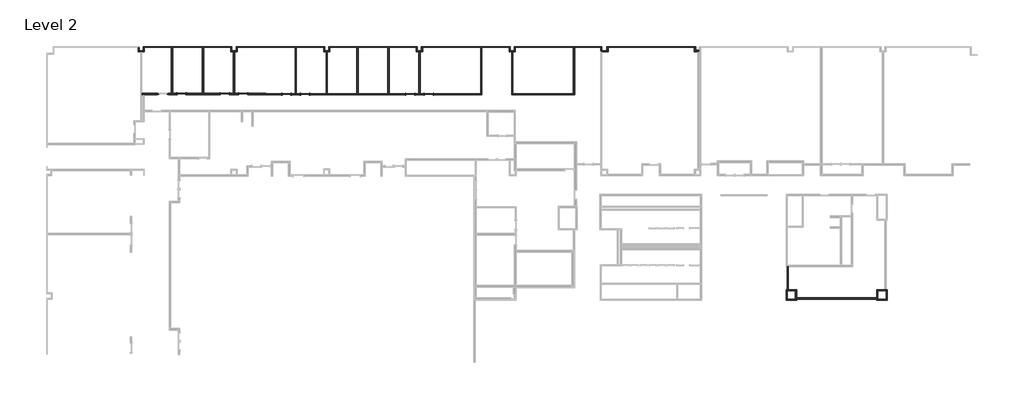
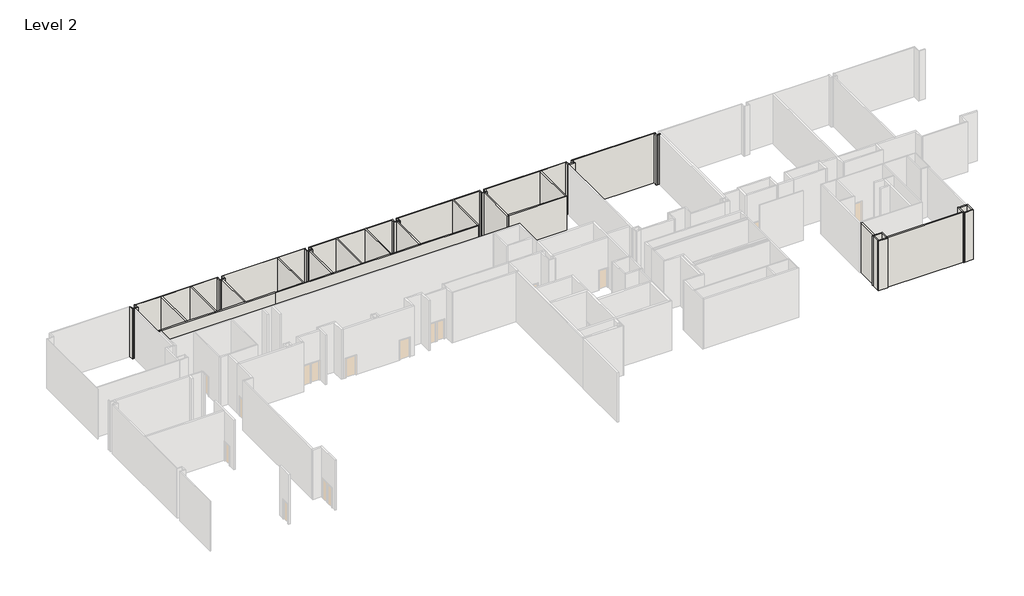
# One storey, part 8 of 9: 50 walls, 7 doors.
"""IFC4 building model written with IfcOpenShell, lengths in millimetres."""

from ifc_helpers import new_model, si_unit, frame, origin, place, context, project, spatial, polyline, outline, extrude, faceted_brep, transform, mapped, element, save
from components import door_3b0d1d25, door_7c9e1b45, door_8244bb97, door_1264ff72

model = new_model("IFC4")

# Units and contexts
model_context = context("Model", 3, world=origin())
ifc_project = project(units=[si_unit("LENGTHUNIT", "METRE", prefix="MILLI")], contexts=[model_context])

# Site, building, storey
site = spatial("IfcSite", under=ifc_project)
building = spatial("IfcBuilding", under=site)
storey = spatial("IfcBuildingStorey", under=building, Name="Level 2", Elevation=5486.4)

# Doors
placement = place(None, origin())
door_shape = door_3b0d1d25(model_context)
element("IfcDoor", 1, ObjectType="Single-Flush : 34\" x 84\"", at=placement, inside=storey, context=model_context, shape_type="MappedRepresentation", body=[
    mapped(door_shape, transform((34204.5818654, 33186.4956105, 5486.4), x_axis=(-1.0, 0.0, 0.0), y_axis=(0.0, -1.0, 0.0), z_axis=(0.0, 0.0, 1.0))),
])
element("IfcDoor", 2, ObjectType="Single-Flush : 34\" x 84\"", at=placement, inside=storey, context=model_context, shape_type="MappedRepresentation", body=[
    mapped(door_shape, transform((22012.6004373, 33186.4956105, 5486.4), x_axis=(-1.0, 0.0, 0.0), y_axis=(0.0, -1.0, 0.0), z_axis=(0.0, 0.0, 1.0))),
])
door_2_shape = door_7c9e1b45(model_context)
element("IfcDoor", 3, ObjectType="Single-Flush : 34\" x 84\"", at=placement, inside=storey, context=model_context, shape_type="MappedRepresentation", body=[
    mapped(door_2_shape, transform((32375.7818654, 33186.4956105, 5486.4), x_axis=(1.0, 0.0, 0.0), y_axis=(0.0, 1.0, 0.0), z_axis=(0.0, 0.0, 1.0))),
])
element("IfcDoor", 4, ObjectType="Single-Flush : 34\" x 84\"", at=placement, inside=storey, context=model_context, shape_type="MappedRepresentation", body=[
    mapped(door_2_shape, transform((20183.8004373, 33186.4956105, 5486.4), x_axis=(1.0, 0.0, 0.0), y_axis=(0.0, 1.0, 0.0), z_axis=(0.0, 0.0, 1.0))),
])
door_3_shape = door_8244bb97(model_context)
element("IfcDoor", 5, ObjectType="Single-Flush : 34\" x 84\"", at=placement, inside=storey, context=model_context, shape_type="MappedRepresentation", body=[
    mapped(door_3_shape, transform((14087.8004373, 33215.0706105, 5486.4), x_axis=(1.0, 0.0, 0.0), y_axis=(0.0, 1.0, 0.0), z_axis=(0.0, 0.0, 1.0))),
])
door_4_shape = door_1264ff72(model_context)
element("IfcDoor", 6, ObjectType="Single-Flush : 34\" x 84\"", at=placement, inside=storey, context=model_context, shape_type="MappedRepresentation", body=[
    mapped(door_4_shape, transform((15916.6004373, 33215.0706105, 5486.4), x_axis=(-1.0, 0.0, 0.0), y_axis=(0.0, -1.0, 0.0), z_axis=(0.0, 0.0, 1.0))),
])
element("IfcDoor", 7, ObjectType="Single-Flush : 34\" x 84\"", at=placement, inside=storey, context=model_context, shape_type="MappedRepresentation", body=[
    mapped(door_4_shape, transform((9820.6004373, 33215.0706105, 5486.4), x_axis=(-1.0, 0.0, 0.0), y_axis=(0.0, -1.0, 0.0), z_axis=(0.0, 0.0, 1.0))),
])

# Walls
element("IfcWall", 8, ObjectType="N2A/B", at=placement, inside=storey, context=model_context, shape_type="Brep", body=[
    faceted_brep([(39324.2879373, 37874.3831105, 5486.4), (39324.2879373, 33248.4081105, 5486.4), (39324.2879373, 33124.5831105, 5486.4), (39324.2879373, 33124.5831105, 10972.8), (39324.2879373, 33248.4081105, 10972.8), (39324.2879373, 37874.3831105, 10972.8), (39448.1129373, 37874.3831105, 5486.4), (39448.1129373, 37874.3831105, 10972.8), (39448.1129373, 33124.5831105, 10972.8), (39448.1129373, 33124.5831105, 5486.4)], [[[0, 1, 2, 3, 4, 5]], [[6, 7, 8, 9]], [[2, 1, 0, 6, 9]], [[5, 4, 3, 8, 7]], [[0, 5, 7, 6]], [[3, 2, 9, 8]]]),
])
element("IfcWall", 9, ObjectType="N2A/B", at=placement, inside=storey, context=model_context, shape_type="Brep", body=[
    faceted_brep([(21580.8004373, 33248.4081105, 7620.0), (21580.8004373, 33248.4081105, 5486.4), (21160.1129373, 33248.4081105, 5486.4), (21036.2879373, 33248.4081105, 5486.4), (20615.6004373, 33248.4081105, 5486.4), (20615.6004373, 33248.4081105, 7620.0), (19752.0004373, 33248.4081105, 7620.0), (19752.0004373, 33248.4081105, 5486.4), (18137.5129373, 33248.4081105, 5486.4), (18137.5129373, 33248.4081105, 10972.8), (21036.2879373, 33248.4081105, 10972.8), (21160.1129373, 33248.4081105, 10972.8), (24084.2693654, 33248.4081105, 10972.8), (24208.0943654, 33248.4081105, 10972.8), (27132.2879373, 33248.4081105, 10972.8), (27256.1129373, 33248.4081105, 10972.8), (30180.2879373, 33248.4081105, 10972.8), (30304.1129373, 33248.4081105, 10972.8), (33228.2693654, 33248.4081105, 10972.8), (33352.0943654, 33248.4081105, 10972.8), (39324.2879373, 33248.4081105, 10972.8), (39324.2879373, 33248.4081105, 5486.4), (34636.3818654, 33248.4081105, 5486.4), (34636.3818654, 33248.4081105, 7620.0), (33772.7818654, 33248.4081105, 7620.0), (33772.7818654, 33248.4081105, 5486.4), (33352.0943654, 33248.4081105, 5486.4), (33228.2693654, 33248.4081105, 5486.4), (32807.5818654, 33248.4081105, 5486.4), (32807.5818654, 33248.4081105, 7620.0), (31943.9818654, 33248.4081105, 7620.0), (31943.9818654, 33248.4081105, 5486.4), (30304.1129373, 33248.4081105, 5486.4), (30180.2879373, 33248.4081105, 5486.4), (27256.1129373, 33248.4081105, 5486.4), (27132.2879373, 33248.4081105, 5486.4), (24208.0943654, 33248.4081105, 5486.4), (24084.2693654, 33248.4081105, 5486.4), (22444.4004373, 33248.4081105, 5486.4), (22444.4004373, 33248.4081105, 7620.0), (20615.6004373, 33124.5831105, 5486.4), (21580.8004373, 33124.5831105, 5486.4), (21580.8004373, 33124.5831105, 7620.0), (22444.4004373, 33124.5831105, 7620.0), (22444.4004373, 33124.5831105, 5486.4), (31943.9818654, 33124.5831105, 5486.4), (31943.9818654, 33124.5831105, 7620.0), (32807.5818654, 33124.5831105, 7620.0), (32807.5818654, 33124.5831105, 5486.4), (33772.7818654, 33124.5831105, 5486.4), (33772.7818654, 33124.5831105, 7620.0), (34636.3818654, 33124.5831105, 7620.0), (34636.3818654, 33124.5831105, 5486.4), (39324.2879373, 33124.5831105, 5486.4), (39324.2879373, 33124.5831105, 10972.8), (18137.5129373, 33124.5831105, 10972.8), (18137.5129373, 33124.5831105, 5486.4), (19752.0004373, 33124.5831105, 5486.4), (19752.0004373, 33124.5831105, 7620.0), (20615.6004373, 33124.5831105, 7620.0), (18137.5129373, 33137.2831105, 5486.4), (18137.5129373, 33137.2831105, 10972.8)], [[[0, 1, 2, 3, 4, 5, 6, 7, 8, 9, 10, 11, 12, 13, 14, 15, 16, 17, 18, 19, 20, 21, 22, 23, 24, 25, 26, 27, 28, 29, 30, 31, 32, 33, 34, 35, 36, 37, 38, 39]], [[40, 41, 42, 43, 44, 45, 46, 47, 48, 49, 50, 51, 52, 53, 54, 55, 56, 57, 58, 59]], [[49, 48, 28, 27, 26, 25]], [[22, 21, 53, 52]], [[4, 3, 2, 1, 41, 40]], [[57, 56, 60, 8, 7]], [[38, 37, 36, 35, 34, 33, 32, 31, 45, 44]], [[9, 8, 60, 56, 55, 61]], [[20, 19, 18, 17, 16, 15, 14, 13, 12, 11, 10, 9, 61, 55, 54]], [[21, 20, 54, 53]], [[50, 49, 25, 24]], [[51, 50, 24, 23]], [[52, 51, 23, 22]], [[29, 28, 48, 47]], [[30, 29, 47, 46]], [[31, 30, 46, 45]], [[5, 4, 40, 59]], [[6, 5, 59, 58]], [[7, 6, 58, 57]], [[42, 41, 1, 0]], [[43, 42, 0, 39]], [[44, 43, 39, 38]]]),
])
element("IfcWall", 10, ObjectType="N2A/B", at=placement, inside=storey, context=model_context, shape_type="SweptSolid", body=[
    extrude(outline(polyline([(21160.1129373, 37874.3831105), (21160.1129373, 33248.4081105), (21036.2879373, 33248.4081105), (21036.2879373, 37874.3831105), (21160.1129373, 37874.3831105)])), frame((0.0, 0.0, 5486.4), z_axis=(0.0, 0.0, 1.0), x_axis=(1.0, 0.0, 0.0)), (0.0, 0.0, 1.0), 5486.4),
])
element("IfcWall", 11, ObjectType="N2A/B", at=placement, inside=storey, context=model_context, shape_type="SweptSolid", body=[
    extrude(outline(polyline([(24084.2693654, 33248.4081105), (24084.2693654, 37366.3831105), (24208.0943654, 37366.3831105), (24208.0943654, 33248.4081105), (24084.2693654, 33248.4081105)])), frame((0.0, 0.0, 5486.4), z_axis=(0.0, 0.0, 1.0), x_axis=(1.0, 0.0, 0.0)), (0.0, 0.0, 1.0), 5486.4),
])
element("IfcWall", 12, ObjectType="N2A/B", at=placement, inside=storey, context=model_context, shape_type="SweptSolid", body=[
    extrude(outline(polyline([(27256.1129373, 37874.3831105), (27256.1129373, 33248.4081105), (27132.2879373, 33248.4081105), (27132.2879373, 37874.3831105), (27256.1129373, 37874.3831105)])), frame((0.0, 0.0, 5486.4), z_axis=(0.0, 0.0, 1.0), x_axis=(1.0, 0.0, 0.0)), (0.0, 0.0, 1.0), 5486.4),
])
element("IfcWall", 13, ObjectType="N2A/B", at=placement, inside=storey, context=model_context, shape_type="SweptSolid", body=[
    extrude(outline(polyline([(30180.2879373, 33248.4081105), (30180.2879373, 37874.3831105), (30304.1129373, 37874.3831105), (30304.1129373, 33248.4081105), (30180.2879373, 33248.4081105)])), frame((0.0, 0.0, 5486.4), z_axis=(0.0, 0.0, 1.0), x_axis=(1.0, 0.0, 0.0)), (0.0, 0.0, 1.0), 5486.4),
])
element("IfcWall", 14, ObjectType="N2A/B", at=placement, inside=storey, context=model_context, shape_type="Brep", body=[
    faceted_brep([(42372.2693654, 37366.3831105, 5486.4), (42372.2693654, 33124.5831105, 5486.4), (42372.2693654, 33124.5831105, 10972.8), (42372.2693654, 37366.3831105, 10972.8), (42496.0943654, 37366.3831105, 5486.4), (42496.0943654, 37366.3831105, 10972.8), (42496.0943654, 33248.4081105, 10972.8), (42496.0943654, 33124.5831105, 10972.8), (42496.0943654, 33124.5831105, 5486.4), (42496.0943654, 33248.4081105, 5486.4)], [[[0, 1, 2, 3]], [[4, 5, 6, 7, 8, 9]], [[1, 0, 4, 9, 8]], [[3, 2, 7, 6, 5]], [[0, 3, 5, 4]], [[2, 1, 8, 7]]]),
])
element("IfcWall", 15, ObjectType="N2A/B", at=placement, inside=storey, context=model_context, shape_type="Brep", body=[
    faceted_brep([(42496.0943654, 33124.5831105, 5486.4), (48592.1129373, 33124.5831105, 5486.4), (48592.1129373, 33124.5831105, 10972.8), (42496.0943654, 33124.5831105, 10972.8), (42496.0943654, 33248.4081105, 5486.4), (42496.0943654, 33248.4081105, 10972.8), (48468.2879373, 33248.4081105, 10972.8), (48592.1129373, 33248.4081105, 10972.8), (48592.1129373, 33248.4081105, 5486.4), (48468.2879373, 33248.4081105, 5486.4)], [[[0, 1, 2, 3]], [[4, 5, 6, 7, 8, 9]], [[1, 0, 4, 9, 8]], [[3, 2, 7, 6, 5]], [[2, 1, 8, 7]], [[0, 3, 5, 4]]]),
])
element("IfcWall", 16, ObjectType="N2A/B", at=placement, inside=storey, context=model_context, shape_type="SweptSolid", body=[
    extrude(outline(polyline([(48592.1129373, 37810.8831105), (48592.1129373, 33248.4081105), (48468.2879373, 33248.4081105), (48468.2879373, 37810.8831105), (48592.1129373, 37810.8831105)])), frame((0.0, 0.0, 5486.4), z_axis=(0.0, 0.0, 1.0), x_axis=(1.0, 0.0, 0.0)), (0.0, 0.0, 1.0), 5486.4),
])
element("IfcWall", 17, ObjectType="N2A/B", at=placement, inside=storey, context=model_context, shape_type="SweptSolid", body=[
    extrude(outline(polyline([(33228.2693654, 33248.4081105), (33228.2693654, 37366.3831105), (33352.0943654, 37366.3831105), (33352.0943654, 33248.4081105), (33228.2693654, 33248.4081105)])), frame((0.0, 0.0, 5486.4), z_axis=(0.0, 0.0, 1.0), x_axis=(1.0, 0.0, 0.0)), (0.0, 0.0, 1.0), 5486.4),
])
element("IfcWall", 18, ObjectType="N15A/B", at=placement, inside=storey, context=model_context, shape_type="SweptSolid", body=[
    extrude(outline(polyline([(78400.6004373, 12977.2709136), (70482.1690091, 12977.2709136), (70482.1690091, 13101.0959136), (78400.6004373, 13101.0959136), (78400.6004373, 12977.2709136)])), frame((0.0, 0.0, 5486.4), z_axis=(0.0, 0.0, 1.0), x_axis=(1.0, 0.0, 0.0)), (0.0, 0.0, 1.0), 5486.4),
])
element("IfcWall", 19, ObjectType="N15A/B", at=placement, inside=storey, context=model_context, shape_type="Brep", body=[
    faceted_brep([(69686.8315091, 13896.7831105, 5486.4), (69686.8315091, 16184.3706114, 5486.4), (69686.8315091, 16184.3706114, 10972.8), (69686.8315091, 13896.7831105, 10972.8), (69563.0065091, 13896.7831105, 5486.4), (69563.0065091, 13896.7831105, 10972.8), (69563.0065091, 16184.3706114, 10972.8), (69563.0065091, 16184.3706114, 5486.4), (69585.2315091, 16184.3706114, 5486.4), (69585.2315091, 16184.3706114, 10972.8)], [[[0, 1, 2, 3]], [[4, 5, 6, 7]], [[1, 0, 4, 7, 8]], [[3, 2, 9, 6, 5]], [[0, 3, 5, 4]], [[2, 1, 8, 7, 6, 9]]]),
])
element("IfcWall", 20, ObjectType="F1A", at=placement, inside=storey, context=model_context, shape_type="Brep", body=[
    faceted_brep([(51889.3504373, 37810.8831105, 5486.4), (60417.4468669, 37810.8831105, 5486.4), (60541.2718669, 37810.8831105, 5486.4), (60541.2718669, 37810.8831105, 10972.8), (60417.4468669, 37810.8831105, 10972.8), (51889.3504373, 37810.8831105, 10972.8), (51889.3504373, 37868.0331105, 5486.4), (51889.3504373, 37868.0331105, 10972.8), (60541.2718669, 37868.0331105, 10972.8), (60541.2718669, 37868.0331105, 5486.4)], [[[0, 1, 2, 3, 4, 5]], [[6, 7, 8, 9]], [[2, 1, 0, 6, 9]], [[5, 4, 3, 8, 7]], [[3, 2, 9, 8]], [[0, 5, 7, 6]]]),
])
element("IfcWall", 21, ObjectType="F1A", at=placement, inside=storey, context=model_context, shape_type="Brep", body=[
    faceted_brep([(51171.8004373, 37868.0331105, 5486.4), (42631.0318654, 37868.0331105, 5486.4), (42631.0318654, 37868.0331105, 10972.8), (51171.8004373, 37868.0331105, 10972.8), (51171.8004373, 37810.8831105, 5486.4), (51171.8004373, 37810.8831105, 10972.8), (48592.1129373, 37810.8831105, 10972.8), (48468.2879373, 37810.8831105, 10972.8), (42738.9818654, 37810.8831105, 10972.8), (42631.0318654, 37810.8831105, 10972.8), (42631.0318654, 37810.8831105, 5486.4), (42738.9818654, 37810.8831105, 5486.4), (48468.2879373, 37810.8831105, 5486.4), (48592.1129373, 37810.8831105, 5486.4)], [[[0, 1, 2, 3]], [[4, 5, 6, 7, 8, 9, 10, 11, 12, 13]], [[1, 0, 4, 13, 12, 11, 10]], [[3, 2, 9, 8, 7, 6, 5]], [[2, 1, 10, 9]], [[0, 3, 5, 4]]]),
])
element("IfcWall", 22, ObjectType="F1A", at=placement, inside=storey, context=model_context, shape_type="Brep", body=[
    faceted_brep([(42129.3818654, 37868.0331105, 5486.4), (33487.0318654, 37868.0331105, 5486.4), (33487.0318654, 37868.0331105, 10972.8), (42129.3818654, 37868.0331105, 10972.8), (42129.3818654, 37810.8831105, 5486.4), (42129.3818654, 37810.8831105, 10972.8), (33594.9818654, 37810.8831105, 10972.8), (33487.0318654, 37810.8831105, 10972.8), (33487.0318654, 37810.8831105, 5486.4), (33594.9818654, 37810.8831105, 5486.4)], [[[0, 1, 2, 3]], [[4, 5, 6, 7, 8, 9]], [[1, 0, 4, 9, 8]], [[3, 2, 7, 6, 5]], [[2, 1, 8, 7]], [[0, 3, 5, 4]]]),
])
element("IfcWall", 23, ObjectType="F1A", at=placement, inside=storey, context=model_context, shape_type="Brep", body=[
    faceted_brep([(32985.3818654, 37868.0331105, 5486.4), (24343.0318654, 37868.0331105, 5486.4), (24343.0318654, 37868.0331105, 10972.8), (32985.3818654, 37868.0331105, 10972.8), (32985.3818654, 37810.8831105, 5486.4), (32985.3818654, 37810.8831105, 10972.8), (24450.9818654, 37810.8831105, 10972.8), (24343.0318654, 37810.8831105, 10972.8), (24343.0318654, 37810.8831105, 5486.4), (24450.9818654, 37810.8831105, 5486.4)], [[[0, 1, 2, 3]], [[4, 5, 6, 7, 8, 9]], [[1, 0, 4, 9, 8]], [[3, 2, 7, 6, 5]], [[2, 1, 8, 7]], [[0, 3, 5, 4]]]),
])
element("IfcWall", 24, ObjectType="F1A", at=placement, inside=storey, context=model_context, shape_type="Brep", body=[
    faceted_brep([(23949.3318654, 37868.0331105, 5486.4), (15313.3504373, 37868.0331105, 5486.4), (15313.3504373, 37868.0331105, 10972.8), (23949.3318654, 37868.0331105, 10972.8), (23949.3318654, 37810.8831105, 5486.4), (23949.3318654, 37810.8831105, 10972.8), (23841.3818654, 37810.8831105, 10972.8), (15313.3504373, 37810.8831105, 10972.8), (15313.3504373, 37810.8831105, 5486.4), (23841.3818654, 37810.8831105, 5486.4)], [[[0, 1, 2, 3]], [[4, 5, 6, 7, 8, 9]], [[1, 0, 4, 9, 8]], [[3, 2, 7, 6, 5]], [[0, 3, 5, 4]], [[2, 1, 8, 7]]]),
])
element("IfcWall", 25, ObjectType="F1A", at=placement, inside=storey, context=model_context, shape_type="Brep", body=[
    faceted_brep([(6169.3504373, 37810.8831105, 5486.4), (8828.4129373, 37810.8831105, 5486.4), (8983.9879373, 37810.8831105, 5486.4), (11876.4129373, 37810.8831105, 5486.4), (12031.9879373, 37810.8831105, 5486.4), (14691.0504373, 37810.8831105, 5486.4), (14799.0004373, 37810.8831105, 5486.4), (14799.0004373, 37810.8831105, 10972.8), (14691.0504373, 37810.8831105, 10972.8), (12031.9879373, 37810.8831105, 10972.8), (11876.4129373, 37810.8831105, 10972.8), (8983.9879373, 37810.8831105, 10972.8), (8828.4129373, 37810.8831105, 10972.8), (6169.3504373, 37810.8831105, 10972.8), (6169.3504373, 37868.0331105, 5486.4), (6169.3504373, 37868.0331105, 10972.8), (14799.0004373, 37868.0331105, 10972.8), (14799.0004373, 37868.0331105, 5486.4)], [[[0, 1, 2, 3, 4, 5, 6, 7, 8, 9, 10, 11, 12, 13]], [[14, 15, 16, 17]], [[6, 5, 4, 3, 2, 1, 0, 14, 17]], [[13, 12, 11, 10, 9, 8, 7, 16, 15]], [[7, 6, 17, 16]], [[0, 13, 15, 14]]]),
])
element("IfcWall", 26, ObjectType="F1C", at=placement, inside=storey, context=model_context, shape_type="Brep", body=[
    faceted_brep([(78400.6004373, 13896.7831105, 5486.4), (78400.6004373, 13101.0959136, 5486.4), (78400.6004373, 12977.2709136, 5486.4), (78400.6004373, 12867.7334136, 5486.4), (78400.6004373, 12867.7334136, 10972.8), (78400.6004373, 12977.2709136, 10972.8), (78400.6004373, 13101.0959136, 10972.8), (78400.6004373, 13896.7831105, 10972.8), (78508.5504373, 13896.7831105, 5486.4), (78508.5504373, 13896.7831105, 10972.8), (78508.5504373, 13788.8331105, 10972.8), (78508.5504373, 12975.6834136, 10972.8), (78508.5504373, 12867.7334136, 10972.8), (78508.5504373, 12867.7334136, 5486.4), (78508.5504373, 12975.6834136, 5486.4), (78508.5504373, 13788.8331105, 5486.4)], [[[0, 1, 2, 3, 4, 5, 6, 7]], [[8, 9, 10, 11, 12, 13, 14, 15]], [[3, 2, 1, 0, 8, 15, 14, 13]], [[7, 6, 5, 4, 12, 11, 10, 9]], [[4, 3, 13, 12]], [[0, 7, 9, 8]]]),
])
element("IfcWall", 27, ObjectType="F1C", at=placement, inside=storey, context=model_context, shape_type="Brep", body=[
    faceted_brep([(78508.5504373, 12867.7334136, 5486.4), (79416.6004372, 12867.7334136, 5486.4), (79416.6004372, 12867.7334136, 10972.8), (78508.5504373, 12867.7334136, 10972.8), (78508.5504373, 12975.6834136, 5486.4), (78508.5504373, 12975.6834136, 10972.8), (79308.6504372, 12975.6834136, 10972.8), (79416.6004372, 12975.6834136, 10972.8), (79416.6004372, 12975.6834136, 5486.4), (79308.6504372, 12975.6834136, 5486.4)], [[[0, 1, 2, 3]], [[4, 5, 6, 7, 8, 9]], [[1, 0, 4, 9, 8]], [[3, 2, 7, 6, 5]], [[2, 1, 8, 7]], [[0, 3, 5, 4]]]),
])
element("IfcWall", 28, ObjectType="F1C", at=placement, inside=storey, context=model_context, shape_type="Brep", body=[
    faceted_brep([(79416.6004372, 12975.6834136, 5486.4), (79416.6004372, 13896.7831105, 5486.4), (79416.6004372, 13896.7831105, 10972.8), (79416.6004372, 12975.6834136, 10972.8), (79308.6504372, 12975.6834136, 5486.4), (79308.6504372, 12975.6834136, 10972.8), (79308.6504372, 13788.8331105, 10972.8), (79308.6504372, 13896.7831105, 10972.8), (79308.6504372, 13896.7831105, 5486.4), (79308.6504372, 13788.8331105, 5486.4), (79313.4129372, 13896.7831105, 5486.4), (79313.4129372, 13896.7831105, 10972.8)], [[[0, 1, 2, 3]], [[4, 5, 6, 7, 8, 9]], [[1, 0, 4, 9, 8, 10]], [[3, 2, 11, 7, 6, 5]], [[2, 1, 10, 8, 7, 11]], [[0, 3, 5, 4]]]),
])
element("IfcWall", 29, ObjectType="F1C", at=placement, inside=storey, context=model_context, shape_type="Brep", body=[
    faceted_brep([(79308.6504372, 13896.7831105, 5486.4), (79189.5879372, 13896.7831105, 5486.4), (78508.5504373, 13896.7831105, 5486.4), (78508.5504373, 13896.7831105, 10972.8), (79189.5879372, 13896.7831105, 10972.8), (79308.6504372, 13896.7831105, 10972.8), (79308.6504372, 13788.8331105, 5486.4), (79308.6504372, 13788.8331105, 10972.8), (78508.5504373, 13788.8331105, 10972.8), (78508.5504373, 13788.8331105, 5486.4)], [[[0, 1, 2, 3, 4, 5]], [[6, 7, 8, 9]], [[2, 1, 0, 6, 9]], [[5, 4, 3, 8, 7]], [[3, 2, 9, 8]], [[0, 5, 7, 6]]]),
])
element("IfcWall", 30, ObjectType="F1C", at=placement, inside=storey, context=model_context, shape_type="Brep", body=[
    faceted_brep([(69459.8190091, 12867.7334136, 5486.4), (70482.1690091, 12867.7334136, 5486.4), (70482.1690091, 12867.7334136, 10972.8), (69459.8190091, 12867.7334136, 10972.8), (69459.8190091, 12975.6834136, 5486.4), (69459.8190091, 12975.6834136, 10972.8), (69567.7690091, 12975.6834136, 10972.8), (70374.2190091, 12975.6834136, 10972.8), (70482.1690091, 12975.6834136, 10972.8), (70482.1690091, 12975.6834136, 5486.4), (70374.2190091, 12975.6834136, 5486.4), (69567.7690091, 12975.6834136, 5486.4)], [[[0, 1, 2, 3]], [[4, 5, 6, 7, 8, 9, 10, 11]], [[1, 0, 4, 11, 10, 9]], [[3, 2, 8, 7, 6, 5]], [[2, 1, 9, 8]], [[0, 3, 5, 4]]]),
])
element("IfcWall", 31, ObjectType="F1C", at=placement, inside=storey, context=model_context, shape_type="Brep", body=[
    faceted_brep([(70482.1690091, 12975.6834136, 5486.4), (70482.1690091, 12977.2709136, 5486.4), (70482.1690091, 13101.0959136, 5486.4), (70482.1690091, 13896.7831105, 5486.4), (70482.1690091, 13896.7831105, 10972.8), (70482.1690091, 13101.0959136, 10972.8), (70482.1690091, 12977.2709136, 10972.8), (70482.1690091, 12975.6834136, 10972.8), (70374.2190091, 12975.6834136, 5486.4), (70374.2190091, 12975.6834136, 10972.8), (70374.2190091, 13788.8331105, 10972.8), (70374.2190091, 13896.7831105, 10972.8), (70374.2190091, 13896.7831105, 5486.4), (70374.2190091, 13788.8331105, 5486.4)], [[[0, 1, 2, 3, 4, 5, 6, 7]], [[8, 9, 10, 11, 12, 13]], [[3, 2, 1, 0, 8, 13, 12]], [[7, 6, 5, 4, 11, 10, 9]], [[4, 3, 12, 11]], [[0, 7, 9, 8]]]),
])
element("IfcWall", 32, ObjectType="F1C", at=placement, inside=storey, context=model_context, shape_type="Brep", body=[
    faceted_brep([(70374.2190091, 13896.7831105, 5486.4), (69686.8315091, 13896.7831105, 5486.4), (69563.0065091, 13896.7831105, 5486.4), (69459.8190091, 13896.7831105, 5486.4), (69459.8190091, 13896.7831105, 10972.8), (69563.0065091, 13896.7831105, 10972.8), (69686.8315091, 13896.7831105, 10972.8), (70374.2190091, 13896.7831105, 10972.8), (70374.2190091, 13788.8331105, 5486.4), (70374.2190091, 13788.8331105, 10972.8), (69567.7690091, 13788.8331105, 10972.8), (69459.8190091, 13788.8331105, 10972.8), (69459.8190091, 13788.8331105, 5486.4), (69567.7690091, 13788.8331105, 5486.4)], [[[0, 1, 2, 3, 4, 5, 6, 7]], [[8, 9, 10, 11, 12, 13]], [[3, 2, 1, 0, 8, 13, 12]], [[7, 6, 5, 4, 11, 10, 9]], [[4, 3, 12, 11]], [[0, 7, 9, 8]]]),
])
element("IfcWall", 33, ObjectType="F1C", at=placement, inside=storey, context=model_context, shape_type="SweptSolid", body=[
    extrude(outline(polyline([(69459.8190091, 12975.6834136), (69459.8190091, 13788.8331105), (69567.7690091, 13788.8331105), (69567.7690091, 12975.6834136), (69459.8190091, 12975.6834136)])), frame((0.0, 0.0, 5486.4), z_axis=(0.0, 0.0, 1.0), x_axis=(1.0, 0.0, 0.0)), (0.0, 0.0, 1.0), 5486.4),
])
element("IfcWall", 34, ObjectType="F2A", at=placement, inside=storey, context=model_context, shape_type="Brep", body=[
    faceted_brep([(51171.8004373, 37874.3831105, 5486.4), (51171.8004373, 37868.0331105, 5486.4), (51171.8004373, 37810.8831105, 5486.4), (51171.8004373, 37420.3581105, 5486.4), (51171.8004373, 37420.3581105, 10972.8), (51171.8004373, 37810.8831105, 10972.8), (51171.8004373, 37868.0331105, 10972.8), (51171.8004373, 37874.3831105, 10972.8), (51279.7504373, 37874.3831105, 5486.4), (51279.7504373, 37874.3831105, 10972.8), (51279.7504373, 37474.3331105, 10972.8), (51279.7504373, 37420.3581105, 10972.8), (51279.7504373, 37420.3581105, 5486.4), (51279.7504373, 37474.3331105, 5486.4)], [[[0, 1, 2, 3, 4, 5, 6, 7]], [[8, 9, 10, 11, 12, 13]], [[3, 2, 1, 0, 8, 13, 12]], [[4, 3, 12, 11]], [[7, 6, 5, 4, 11, 10, 9]], [[0, 7, 9, 8]]]),
])
element("IfcWall", 35, ObjectType="F2A", at=placement, inside=storey, context=model_context, shape_type="Brep", body=[
    faceted_brep([(51287.6879373, 37366.3831105, 5486.4), (51889.3504373, 37366.3831105, 5486.4), (51889.3504373, 37366.3831105, 10972.8), (51287.6879373, 37366.3831105, 10972.8), (51279.7504373, 37474.3331105, 5486.4), (51279.7504373, 37474.3331105, 10972.8), (51781.4004373, 37474.3331105, 10972.8), (51889.3504373, 37474.3331105, 10972.8), (51889.3504373, 37474.3331105, 5486.4), (51781.4004373, 37474.3331105, 5486.4), (51287.6879373, 37420.3581105, 5486.4), (51279.7504373, 37420.3581105, 5486.4), (51279.7504373, 37420.3581105, 10972.8), (51287.6879373, 37420.3581105, 10972.8)], [[[0, 1, 2, 3]], [[4, 5, 6, 7, 8, 9]], [[1, 0, 10, 11, 4, 9, 8]], [[3, 2, 7, 6, 5, 12, 13]], [[2, 1, 8, 7]], [[0, 3, 13, 10]], [[13, 12, 11, 10]], [[12, 5, 4, 11]]]),
])
element("IfcWall", 36, ObjectType="F2A", at=placement, inside=storey, context=model_context, shape_type="Brep", body=[
    faceted_brep([(51889.3504373, 37474.3331105, 5486.4), (51889.3504373, 37810.8831105, 5486.4), (51889.3504373, 37868.0331105, 5486.4), (51889.3504373, 37874.3831105, 5486.4), (51889.3504373, 37874.3831105, 10972.8), (51889.3504373, 37868.0331105, 10972.8), (51889.3504373, 37810.8831105, 10972.8), (51889.3504373, 37474.3331105, 10972.8), (51781.4004373, 37474.3331105, 5486.4), (51781.4004373, 37474.3331105, 10972.8), (51781.4004373, 37874.3831105, 10972.8), (51781.4004373, 37874.3831105, 5486.4)], [[[0, 1, 2, 3, 4, 5, 6, 7]], [[8, 9, 10, 11]], [[3, 2, 1, 0, 8, 11]], [[4, 3, 11, 10]], [[7, 6, 5, 4, 10, 9]], [[0, 7, 9, 8]]]),
])
element("IfcWall", 37, ObjectType="F2A", at=placement, inside=storey, context=model_context, shape_type="Brep", body=[
    faceted_brep([(42631.0318654, 37810.8831105, 5486.4), (42631.0318654, 37487.0331105, 5486.4), (42631.0318654, 37379.0831105, 5486.4), (42631.0318654, 37379.0831105, 10972.8), (42631.0318654, 37487.0331105, 10972.8), (42631.0318654, 37810.8831105, 10972.8), (42738.9818654, 37810.8831105, 5486.4), (42738.9818654, 37810.8831105, 10972.8), (42738.9818654, 37379.0831105, 10972.8), (42738.9818654, 37379.0831105, 5486.4)], [[[0, 1, 2, 3, 4, 5]], [[6, 7, 8, 9]], [[2, 1, 0, 6, 9]], [[5, 4, 3, 8, 7]], [[3, 2, 9, 8]], [[0, 5, 7, 6]]]),
])
element("IfcWall", 38, ObjectType="F2A", at=placement, inside=storey, context=model_context, shape_type="Brep", body=[
    faceted_brep([(42631.0318654, 37487.0331105, 5486.4), (42237.3318654, 37487.0331105, 5486.4), (42129.3818654, 37487.0331105, 5486.4), (42129.3818654, 37487.0331105, 10972.8), (42237.3318654, 37487.0331105, 10972.8), (42631.0318654, 37487.0331105, 10972.8), (42631.0318654, 37379.0831105, 5486.4), (42631.0318654, 37379.0831105, 10972.8), (42129.3818654, 37379.0831105, 10972.8), (42129.3818654, 37379.0831105, 5486.4)], [[[0, 1, 2, 3, 4, 5]], [[6, 7, 8, 9]], [[2, 1, 0, 6, 9]], [[5, 4, 3, 8, 7]], [[3, 2, 9, 8]], [[0, 5, 7, 6]]]),
])
element("IfcWall", 39, ObjectType="F2A", at=placement, inside=storey, context=model_context, shape_type="Brep", body=[
    faceted_brep([(42237.3318654, 37487.0331105, 5486.4), (42237.3318654, 37890.2581105, 5486.4), (42237.3318654, 37890.2581105, 10972.8), (42237.3318654, 37487.0331105, 10972.8), (42129.3818654, 37487.0331105, 5486.4), (42129.3818654, 37487.0331105, 10972.8), (42129.3818654, 37810.8831105, 10972.8), (42129.3818654, 37868.0331105, 10972.8), (42129.3818654, 37890.2581105, 10972.8), (42129.3818654, 37890.2581105, 5486.4), (42129.3818654, 37868.0331105, 5486.4), (42129.3818654, 37810.8831105, 5486.4)], [[[0, 1, 2, 3]], [[4, 5, 6, 7, 8, 9, 10, 11]], [[1, 0, 4, 11, 10, 9]], [[2, 1, 9, 8]], [[3, 2, 8, 7, 6, 5]], [[0, 3, 5, 4]]]),
])
element("IfcWall", 40, ObjectType="F2A", at=placement, inside=storey, context=model_context, shape_type="Brep", body=[
    faceted_brep([(33487.0318654, 37810.8831105, 5486.4), (33487.0318654, 37474.3331105, 5486.4), (33487.0318654, 37366.3831105, 5486.4), (33487.0318654, 37366.3831105, 10972.8), (33487.0318654, 37474.3331105, 10972.8), (33487.0318654, 37810.8831105, 10972.8), (33594.9818654, 37810.8831105, 5486.4), (33594.9818654, 37810.8831105, 10972.8), (33594.9818654, 37366.3831105, 10972.8), (33594.9818654, 37366.3831105, 5486.4)], [[[0, 1, 2, 3, 4, 5]], [[6, 7, 8, 9]], [[2, 1, 0, 6, 9]], [[5, 4, 3, 8, 7]], [[3, 2, 9, 8]], [[0, 5, 7, 6]]]),
])
element("IfcWall", 41, ObjectType="F2A", at=placement, inside=storey, context=model_context, shape_type="Brep", body=[
    faceted_brep([(33487.0318654, 37474.3331105, 5486.4), (33093.3318654, 37474.3331105, 5486.4), (32985.3818654, 37474.3331105, 5486.4), (32985.3818654, 37474.3331105, 10972.8), (33093.3318654, 37474.3331105, 10972.8), (33487.0318654, 37474.3331105, 10972.8), (33487.0318654, 37366.3831105, 5486.4), (33487.0318654, 37366.3831105, 10972.8), (33352.0943654, 37366.3831105, 10972.8), (33228.2693654, 37366.3831105, 10972.8), (32985.3818654, 37366.3831105, 10972.8), (32985.3818654, 37366.3831105, 5486.4), (33228.2693654, 37366.3831105, 5486.4), (33352.0943654, 37366.3831105, 5486.4)], [[[0, 1, 2, 3, 4, 5]], [[6, 7, 8, 9, 10, 11, 12, 13]], [[2, 1, 0, 6, 13, 12, 11]], [[5, 4, 3, 10, 9, 8, 7]], [[3, 2, 11, 10]], [[0, 5, 7, 6]]]),
])
element("IfcWall", 42, ObjectType="F2A", at=placement, inside=storey, context=model_context, shape_type="Brep", body=[
    faceted_brep([(33093.3318654, 37474.3331105, 5486.4), (33093.3318654, 37868.0331105, 5486.4), (33093.3318654, 37868.0331105, 10972.8), (33093.3318654, 37474.3331105, 10972.8), (32985.3818654, 37474.3331105, 5486.4), (32985.3818654, 37474.3331105, 10972.8), (32985.3818654, 37810.8831105, 10972.8), (32985.3818654, 37868.0331105, 10972.8), (32985.3818654, 37868.0331105, 5486.4), (32985.3818654, 37810.8831105, 5486.4)], [[[0, 1, 2, 3]], [[4, 5, 6, 7, 8, 9]], [[1, 0, 4, 9, 8]], [[3, 2, 7, 6, 5]], [[2, 1, 8, 7]], [[0, 3, 5, 4]]]),
])
element("IfcWall", 43, ObjectType="F2A", at=placement, inside=storey, context=model_context, shape_type="Brep", body=[
    faceted_brep([(23841.3818654, 37810.8831105, 5486.4), (23841.3818654, 37366.3831105, 5486.4), (23841.3818654, 37366.3831105, 10972.8), (23841.3818654, 37810.8831105, 10972.8), (23949.3318654, 37810.8831105, 5486.4), (23949.3318654, 37810.8831105, 10972.8), (23949.3318654, 37474.3331105, 10972.8), (23949.3318654, 37366.3831105, 10972.8), (23949.3318654, 37366.3831105, 5486.4), (23949.3318654, 37474.3331105, 5486.4)], [[[0, 1, 2, 3]], [[4, 5, 6, 7, 8, 9]], [[1, 0, 4, 9, 8]], [[3, 2, 7, 6, 5]], [[2, 1, 8, 7]], [[0, 3, 5, 4]]]),
])
element("IfcWall", 44, ObjectType="F2A", at=placement, inside=storey, context=model_context, shape_type="Brep", body=[
    faceted_brep([(23949.3318654, 37366.3831105, 5486.4), (24084.2693654, 37366.3831105, 5486.4), (24208.0943654, 37366.3831105, 5486.4), (24450.9818654, 37366.3831105, 5486.4), (24450.9818654, 37366.3831105, 10972.8), (24208.0943654, 37366.3831105, 10972.8), (24084.2693654, 37366.3831105, 10972.8), (23949.3318654, 37366.3831105, 10972.8), (23949.3318654, 37474.3331105, 5486.4), (23949.3318654, 37474.3331105, 10972.8), (24343.0318654, 37474.3331105, 10972.8), (24450.9818654, 37474.3331105, 10972.8), (24450.9818654, 37474.3331105, 5486.4), (24343.0318654, 37474.3331105, 5486.4)], [[[0, 1, 2, 3, 4, 5, 6, 7]], [[8, 9, 10, 11, 12, 13]], [[3, 2, 1, 0, 8, 13, 12]], [[7, 6, 5, 4, 11, 10, 9]], [[4, 3, 12, 11]], [[0, 7, 9, 8]]]),
])
element("IfcWall", 45, ObjectType="F2A", at=placement, inside=storey, context=model_context, shape_type="SweptSolid", body=[
    extrude(outline(polyline([(24450.9818654, 37810.8831105), (24450.9818654, 37474.3331105), (24343.0318654, 37474.3331105), (24343.0318654, 37810.8831105), (24450.9818654, 37810.8831105)])), frame((0.0, 0.0, 5486.4), z_axis=(0.0, 0.0, 1.0), x_axis=(1.0, 0.0, 0.0)), (0.0, 0.0, 1.0), 5486.4),
])
element("IfcWall", 46, ObjectType="F2A", at=placement, inside=storey, context=model_context, shape_type="Brep", body=[
    faceted_brep([(5547.0504373, 37810.8831105, 5486.4), (5547.0504373, 37360.0331105, 5486.4), (5547.0504373, 37360.0331105, 10972.8), (5547.0504373, 37810.8831105, 10972.8), (5655.0004373, 37810.8831105, 5486.4), (5655.0004373, 37810.8831105, 10972.8), (5655.0004373, 37467.9831105, 10972.8), (5655.0004373, 37360.0331105, 10972.8), (5655.0004373, 37360.0331105, 5486.4), (5655.0004373, 37467.9831105, 5486.4)], [[[0, 1, 2, 3]], [[4, 5, 6, 7, 8, 9]], [[1, 0, 4, 9, 8]], [[3, 2, 7, 6, 5]], [[2, 1, 8, 7]], [[0, 3, 5, 4]]]),
])
element("IfcWall", 47, ObjectType="F2A", at=placement, inside=storey, context=model_context, shape_type="Brep", body=[
    faceted_brep([(5655.0004373, 37360.0331105, 5486.4), (5796.3065091, 37360.0331105, 5486.4), (5904.2565091, 37360.0331105, 5486.4), (6169.3504373, 37360.0331105, 5486.4), (6169.3504373, 37360.0331105, 10972.8), (5904.2565091, 37360.0331105, 10972.8), (5796.3065091, 37360.0331105, 10972.8), (5655.0004373, 37360.0331105, 10972.8), (5655.0004373, 37467.9831105, 5486.4), (5655.0004373, 37467.9831105, 10972.8), (6061.4004373, 37467.9831105, 10972.8), (6169.3504373, 37467.9831105, 10972.8), (6169.3504373, 37467.9831105, 5486.4), (6061.4004373, 37467.9831105, 5486.4)], [[[0, 1, 2, 3, 4, 5, 6, 7]], [[8, 9, 10, 11, 12, 13]], [[3, 2, 1, 0, 8, 13, 12]], [[7, 6, 5, 4, 11, 10, 9]], [[4, 3, 12, 11]], [[0, 7, 9, 8]]]),
])
element("IfcWall", 48, ObjectType="F2A", at=placement, inside=storey, context=model_context, shape_type="Brep", body=[
    faceted_brep([(6169.3504373, 37467.9831105, 5486.4), (6169.3504373, 37810.8831105, 5486.4), (6169.3504373, 37868.0331105, 5486.4), (6169.3504373, 37868.0331105, 10972.8), (6169.3504373, 37810.8831105, 10972.8), (6169.3504373, 37467.9831105, 10972.8), (6061.4004373, 37467.9831105, 5486.4), (6061.4004373, 37467.9831105, 10972.8), (6061.4004373, 37868.0331105, 10972.8), (6061.4004373, 37868.0331105, 5486.4)], [[[0, 1, 2, 3, 4, 5]], [[6, 7, 8, 9]], [[2, 1, 0, 6, 9]], [[5, 4, 3, 8, 7]], [[3, 2, 9, 8]], [[0, 5, 7, 6]]]),
])
element("IfcWall", 49, ObjectType="F2A", at=placement, inside=storey, context=model_context, shape_type="Brep", body=[
    faceted_brep([(14691.0504373, 37810.8831105, 5486.4), (14691.0504373, 37360.0331105, 5486.4), (14691.0504373, 37360.0331105, 10972.8), (14691.0504373, 37810.8831105, 10972.8), (14799.0004373, 37810.8831105, 5486.4), (14799.0004373, 37810.8831105, 10972.8), (14799.0004373, 37467.9831105, 10972.8), (14799.0004373, 37360.0331105, 10972.8), (14799.0004373, 37360.0331105, 5486.4), (14799.0004373, 37467.9831105, 5486.4)], [[[0, 1, 2, 3]], [[4, 5, 6, 7, 8, 9]], [[1, 0, 4, 9, 8]], [[3, 2, 7, 6, 5]], [[2, 1, 8, 7]], [[0, 3, 5, 4]]]),
])
element("IfcWall", 50, ObjectType="F2A", at=placement, inside=storey, context=model_context, shape_type="Brep", body=[
    faceted_brep([(14799.0004373, 37360.0331105, 5486.4), (14924.4129373, 37360.0331105, 5486.4), (15079.9879373, 37360.0331105, 5486.4), (15313.3504373, 37360.0331105, 5486.4), (15313.3504373, 37360.0331105, 10972.8), (15079.9879373, 37360.0331105, 10972.8), (14924.4129373, 37360.0331105, 10972.8), (14799.0004373, 37360.0331105, 10972.8), (14799.0004373, 37467.9831105, 5486.4), (14799.0004373, 37467.9831105, 10972.8), (15205.4004373, 37467.9831105, 10972.8), (15313.3504373, 37467.9831105, 10972.8), (15313.3504373, 37467.9831105, 5486.4), (15205.4004373, 37467.9831105, 5486.4)], [[[0, 1, 2, 3, 4, 5, 6, 7]], [[8, 9, 10, 11, 12, 13]], [[3, 2, 1, 0, 8, 13, 12]], [[7, 6, 5, 4, 11, 10, 9]], [[4, 3, 12, 11]], [[0, 7, 9, 8]]]),
])
element("IfcWall", 51, ObjectType="F2A", at=placement, inside=storey, context=model_context, shape_type="Brep", body=[
    faceted_brep([(15313.3504373, 37467.9831105, 5486.4), (15313.3504373, 37810.8831105, 5486.4), (15313.3504373, 37868.0331105, 5486.4), (15313.3504373, 37868.0331105, 10972.8), (15313.3504373, 37810.8831105, 10972.8), (15313.3504373, 37467.9831105, 10972.8), (15205.4004373, 37467.9831105, 5486.4), (15205.4004373, 37467.9831105, 10972.8), (15205.4004373, 37868.0331105, 10972.8), (15205.4004373, 37868.0331105, 5486.4)], [[[0, 1, 2, 3, 4, 5]], [[6, 7, 8, 9]], [[2, 1, 0, 6, 9]], [[5, 4, 3, 8, 7]], [[3, 2, 9, 8]], [[0, 5, 7, 6]]]),
])
element("IfcWall", 52, ObjectType="F4A", at=placement, inside=storey, context=model_context, shape_type="Brep", body=[
    faceted_brep([(60417.4468669, 37810.8831105, 5486.4), (60417.4468669, 37379.9086106, 5486.4), (60417.4468669, 37379.9086106, 10972.8), (60417.4468669, 37810.8831105, 10972.8), (60541.2718669, 37810.8831105, 5486.4), (60541.2718669, 37810.8831105, 10972.8), (60541.2718669, 37503.7336106, 10972.8), (60541.2718669, 37379.9086106, 10972.8), (60541.2718669, 37379.9086106, 5486.4), (60541.2718669, 37503.7336106, 5486.4)], [[[0, 1, 2, 3]], [[4, 5, 6, 7, 8, 9]], [[1, 0, 4, 9, 8]], [[3, 2, 7, 6, 5]], [[2, 1, 8, 7]], [[0, 3, 5, 4]]]),
])
element("IfcWall", 53, ObjectType="F4A", at=placement, inside=storey, context=model_context, shape_type="SweptSolid", body=[
    extrude(outline(polyline([(60895.2379373, 37379.9086106), (60541.2718669, 37379.9086106), (60541.2718669, 37503.7336106), (60895.2379373, 37503.7336106), (60895.2379373, 37379.9086106)])), frame((0.0, 0.0, 5486.4), z_axis=(0.0, 0.0, 1.0), x_axis=(1.0, 0.0, 0.0)), (0.0, 0.0, 1.0), 5486.4),
])
element("IfcWall", 54, ObjectType="N4A", at=placement, inside=storey, context=model_context, shape_type="Brep", body=[
    faceted_brep([(8423.6004373, 33137.2831105, 5486.4), (9388.8004373, 33137.2831105, 5486.4), (9388.8004373, 33137.2831105, 7620.0), (10252.4004373, 33137.2831105, 7620.0), (10252.4004373, 33137.2831105, 5486.4), (13656.0004373, 33137.2831105, 5486.4), (13656.0004373, 33137.2831105, 7620.0), (14519.6004373, 33137.2831105, 7620.0), (14519.6004373, 33137.2831105, 5486.4), (15484.8004373, 33137.2831105, 5486.4), (15484.8004373, 33137.2831105, 7620.0), (16348.4004373, 33137.2831105, 7620.0), (16348.4004373, 33137.2831105, 5486.4), (18137.5129373, 33137.2831105, 5486.4), (18137.5129373, 33137.2831105, 10972.8), (6163.0004373, 33137.2831105, 10972.8), (6055.0504373, 33137.2831105, 10972.8), (5904.2565091, 33137.2831105, 10972.8), (5904.2565091, 33137.2831105, 5486.4), (6055.0504373, 33137.2831105, 5486.4), (6163.0004373, 33137.2831105, 5486.4), (7560.0004373, 33137.2831105, 5486.4), (7560.0004373, 33137.2831105, 7620.0), (8423.6004373, 33137.2831105, 7620.0), (9388.8004373, 33292.8581105, 7620.0), (9388.8004373, 33292.8581105, 5486.4), (8983.9879373, 33292.8581105, 5486.4), (8828.4129373, 33292.8581105, 5486.4), (8423.6004373, 33292.8581105, 5486.4), (8423.6004373, 33292.8581105, 7620.0), (7560.0004373, 33292.8581105, 7620.0), (7560.0004373, 33292.8581105, 5486.4), (5904.2565091, 33292.8581105, 5486.4), (5904.2565091, 33292.8581105, 10972.8), (8828.4129373, 33292.8581105, 10972.8), (8983.9879373, 33292.8581105, 10972.8), (11876.4129373, 33292.8581105, 10972.8), (12031.9879373, 33292.8581105, 10972.8), (14924.4129373, 33292.8581105, 10972.8), (15079.9879373, 33292.8581105, 10972.8), (18137.5129373, 33292.8581105, 10972.8), (18137.5129373, 33292.8581105, 5486.4), (16348.4004373, 33292.8581105, 5486.4), (16348.4004373, 33292.8581105, 7620.0), (15484.8004373, 33292.8581105, 7620.0), (15484.8004373, 33292.8581105, 5486.4), (15079.9879373, 33292.8581105, 5486.4), (14924.4129373, 33292.8581105, 5486.4), (14519.6004373, 33292.8581105, 5486.4), (14519.6004373, 33292.8581105, 7620.0), (13656.0004373, 33292.8581105, 7620.0), (13656.0004373, 33292.8581105, 5486.4), (12031.9879373, 33292.8581105, 5486.4), (11876.4129373, 33292.8581105, 5486.4), (10252.4004373, 33292.8581105, 5486.4), (10252.4004373, 33292.8581105, 7620.0), (18137.5129373, 33248.4081105, 5486.4), (18137.5129373, 33248.4081105, 10972.8)], [[[0, 1, 2, 3, 4, 5, 6, 7, 8, 9, 10, 11, 12, 13, 14, 15, 16, 17, 18, 19, 20, 21, 22, 23]], [[24, 25, 26, 27, 28, 29, 30, 31, 32, 33, 34, 35, 36, 37, 38, 39, 40, 41, 42, 43, 44, 45, 46, 47, 48, 49, 50, 51, 52, 53, 54, 55]], [[48, 47, 46, 45, 9, 8]], [[28, 27, 26, 25, 1, 0]], [[42, 41, 56, 13, 12]], [[21, 20, 19, 18, 32, 31]], [[54, 53, 52, 51, 5, 4]], [[14, 13, 56, 41, 40, 57]], [[17, 16, 15, 14, 57, 40, 39, 38, 37, 36, 35, 34, 33]], [[18, 17, 33, 32]], [[49, 48, 8, 7]], [[50, 49, 7, 6]], [[51, 50, 6, 5]], [[10, 9, 45, 44]], [[11, 10, 44, 43]], [[12, 11, 43, 42]], [[29, 28, 0, 23]], [[30, 29, 23, 22]], [[31, 30, 22, 21]], [[2, 1, 25, 24]], [[3, 2, 24, 55]], [[4, 3, 55, 54]]]),
])
element("IfcWall", 55, ObjectType="N4A", at=placement, inside=storey, context=model_context, shape_type="SweptSolid", body=[
    extrude(outline(polyline([(15079.9879373, 37360.0331105), (15079.9879373, 33292.8581105), (14924.4129373, 33292.8581105), (14924.4129373, 37360.0331105), (15079.9879373, 37360.0331105)])), frame((0.0, 0.0, 5486.4), z_axis=(0.0, 0.0, 1.0), x_axis=(1.0, 0.0, 0.0)), (0.0, 0.0, 1.0), 5486.4),
])
element("IfcWall", 56, ObjectType="N4A", at=placement, inside=storey, context=model_context, shape_type="SweptSolid", body=[
    extrude(outline(polyline([(12031.9879373, 37810.8831105), (12031.9879373, 33292.8581105), (11876.4129373, 33292.8581105), (11876.4129373, 37810.8831105), (12031.9879373, 37810.8831105)])), frame((0.0, 0.0, 5486.4), z_axis=(0.0, 0.0, 1.0), x_axis=(1.0, 0.0, 0.0)), (0.0, 0.0, 1.0), 5486.4),
])
element("IfcWall", 57, ObjectType="N4A", at=placement, inside=storey, context=model_context, shape_type="SweptSolid", body=[
    extrude(outline(polyline([(8983.9879373, 37810.8831105), (8983.9879373, 33292.8581105), (8828.4129373, 33292.8581105), (8828.4129373, 37810.8831105), (8983.9879373, 37810.8831105)])), frame((0.0, 0.0, 5486.4), z_axis=(0.0, 0.0, 1.0), x_axis=(1.0, 0.0, 0.0)), (0.0, 0.0, 1.0), 5486.4),
])

save(model, "model.ifc")
